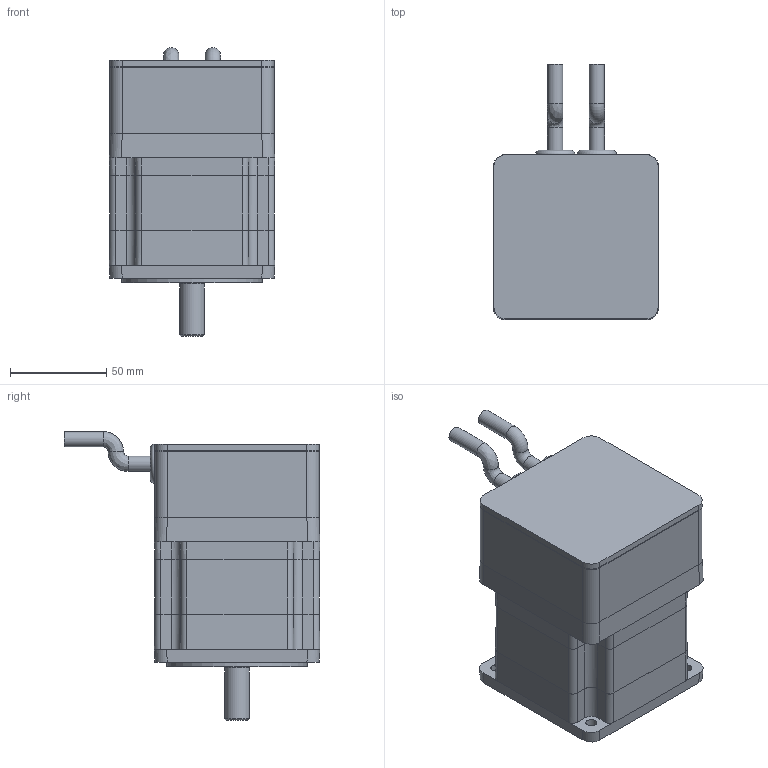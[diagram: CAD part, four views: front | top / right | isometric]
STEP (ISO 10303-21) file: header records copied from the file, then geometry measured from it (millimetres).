
FILE_DESCRIPTION((''),'2;1');
FILE_NAME('C:\CAD_work\Dummy_Modeling_Project_02-12-05\3D MODELS\BE341_CBL.stp','2005-12-20T16:00:39',('jevans'),(''),'Autodesk Inventor 10','Autodesk Inventor 10','');
FILE_SCHEMA(('AUTOMOTIVE_DESIGN { 1 0 10303 214 1 1 1 1 }'));
Length unit declared in the file: inch
Products named in the file (1): BE34_CBL
Bounding box: 85.66 x 132.36 x 149.64 mm (x, y, z)
Volume: 777307.8 mm3; surface area: 66888.1 mm2
Topology: 4 solids, 4 shells, 214 faces, 520 edges, 323 vertices
Faces by surface type: plane 106, cylinder 84, bspline 15, cone 6, torus 3
Full cylindrical faces by diameter (mm): 2.5 x2, 7.95 x2, 12.7 x1, 14.994 x1, 15 x1, 20.32 x1, 32 x1, 32.007 x1, 35.001 x1, 36.779 x1, 37.109 x1, 41.326 x3, 73.025 x1
Entity records: 6415 total; most frequent: CARTESIAN_POINT 1476, DIRECTION 1068, ORIENTED_EDGE 940, EDGE_CURVE 470, AXIS2_PLACEMENT_3D 398, VERTEX_POINT 312, EDGE_LOOP 278, VECTOR 272
